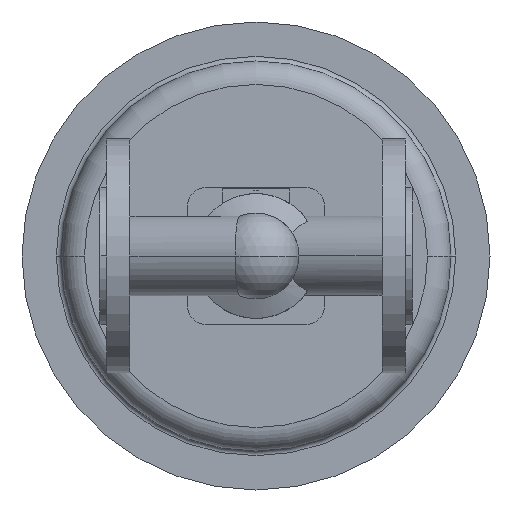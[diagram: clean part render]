
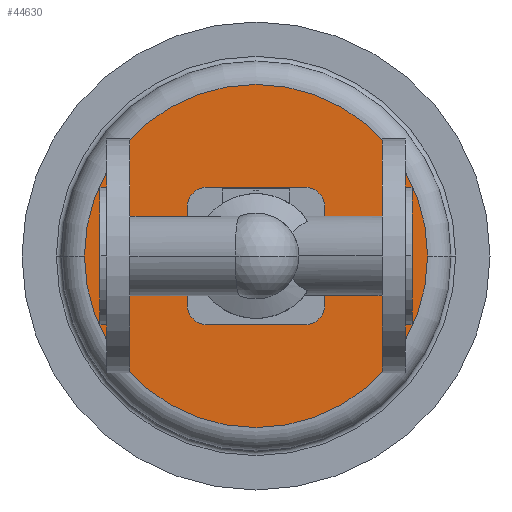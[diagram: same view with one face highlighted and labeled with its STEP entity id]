
A CAD part, front view. The second image highlights one B-rep face of the part: STEP entity #44630.
In plain terms, the highlighted planar face has unit normal (0, -1, 0).
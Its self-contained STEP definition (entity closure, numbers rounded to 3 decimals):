
#34430=CARTESIAN_POINT('',(-10.,363.,0.));
#34440=VERTEX_POINT('',#34430);
#34530=CARTESIAN_POINT('',(210.,363.,0.));
#34540=VERTEX_POINT('',#34530);
#34570=CARTESIAN_POINT('',(100.,363.,0.));
#34580=DIRECTION('',(0.,1.,0.));
#34590=DIRECTION('',(1.,0.,0.));
#34600=AXIS2_PLACEMENT_3D('',#34570,#34580,#34590);
#34610=CIRCLE('',#34600,110.);
#34620=CARTESIAN_POINT('',(100.,363.,110.));
#34630=VERTEX_POINT('',#34620);
#34640=EDGE_CURVE('',#34630,#34540,#34610,.T.);
#34660=EDGE_CURVE('',#34440,#34630,#34610,.T.);
#35240=CARTESIAN_POINT('',(165.,363.,0.));
#35250=VERTEX_POINT('',#35240);
#35410=CARTESIAN_POINT('',(135.,363.,0.));
#35420=VERTEX_POINT('',#35410);
#35450=CARTESIAN_POINT('',(150.,363.,0.));
#35460=DIRECTION('',(0.,1.,0.));
#35470=DIRECTION('',(1.,0.,0.));
#35480=AXIS2_PLACEMENT_3D('',#35450,#35460,#35470);
#35490=CIRCLE('',#35480,15.);
#35500=EDGE_CURVE('',#35420,#35250,#35490,.T.);
#35660=CARTESIAN_POINT('',(35.,363.,0.));
#35670=VERTEX_POINT('',#35660);
#35700=CARTESIAN_POINT('',(50.,363.,0.));
#35710=DIRECTION('',(0.,1.,0.));
#35720=DIRECTION('',(1.,0.,0.));
#35730=AXIS2_PLACEMENT_3D('',#35700,#35710,#35720);
#35740=CIRCLE('',#35730,15.);
#35750=CARTESIAN_POINT('',(65.,363.,0.));
#35760=VERTEX_POINT('',#35750);
#35770=EDGE_CURVE('',#35670,#35760,#35740,.T.);
#36060=CARTESIAN_POINT('',(118.45,363.,0.));
#36070=VERTEX_POINT('',#36060);
#36290=CARTESIAN_POINT('',(81.55,363.,0.));
#36300=VERTEX_POINT('',#36290);
#36330=CARTESIAN_POINT('',(100.,363.,0.));
#36340=DIRECTION('',(0.,1.,0.));
#36350=DIRECTION('',(1.,0.,0.));
#36360=AXIS2_PLACEMENT_3D('',#36330,#36340,#36350);
#36370=CIRCLE('',#36360,18.45);
#36380=EDGE_CURVE('',#36300,#36070,#36370,.T.);
#44370=CARTESIAN_POINT('',(155.,363.,0.));
#44380=DIRECTION('',(0.,-1.,0.));
#44390=DIRECTION('',(-1.,0.,0.));
#44400=AXIS2_PLACEMENT_3D('',#44370,#44380,#44390);
#44410=PLANE('',#44400);
#44420=EDGE_CURVE('',#36070,#36300,#36370,.T.);
#44430=ORIENTED_EDGE('',*,*,#44420,.T.);
#44440=ORIENTED_EDGE('',*,*,#36380,.T.);
#44450=EDGE_LOOP('',(#44440,#44430));
#44460=FACE_BOUND('',#44450,.T.);
#44470=EDGE_CURVE('',#35760,#35670,#35740,.T.);
#44480=ORIENTED_EDGE('',*,*,#44470,.T.);
#44490=ORIENTED_EDGE('',*,*,#35770,.T.);
#44500=EDGE_LOOP('',(#44490,#44480));
#44510=FACE_BOUND('',#44500,.T.);
#44520=EDGE_CURVE('',#35250,#35420,#35490,.T.);
#44530=ORIENTED_EDGE('',*,*,#44520,.T.);
#44540=ORIENTED_EDGE('',*,*,#35500,.T.);
#44550=EDGE_LOOP('',(#44540,#44530));
#44560=FACE_BOUND('',#44550,.T.);
#44570=ORIENTED_EDGE('',*,*,#34640,.F.);
#44580=EDGE_CURVE('',#34540,#34440,#34610,.T.);
#44590=ORIENTED_EDGE('',*,*,#44580,.F.);
#44600=ORIENTED_EDGE('',*,*,#34660,.F.);
#44610=EDGE_LOOP('',(#44600,#44590,#44570));
#44620=FACE_OUTER_BOUND('',#44610,.T.);
#44630=ADVANCED_FACE('',(#44460,#44510,#44560,#44620),#44410,.T.);
